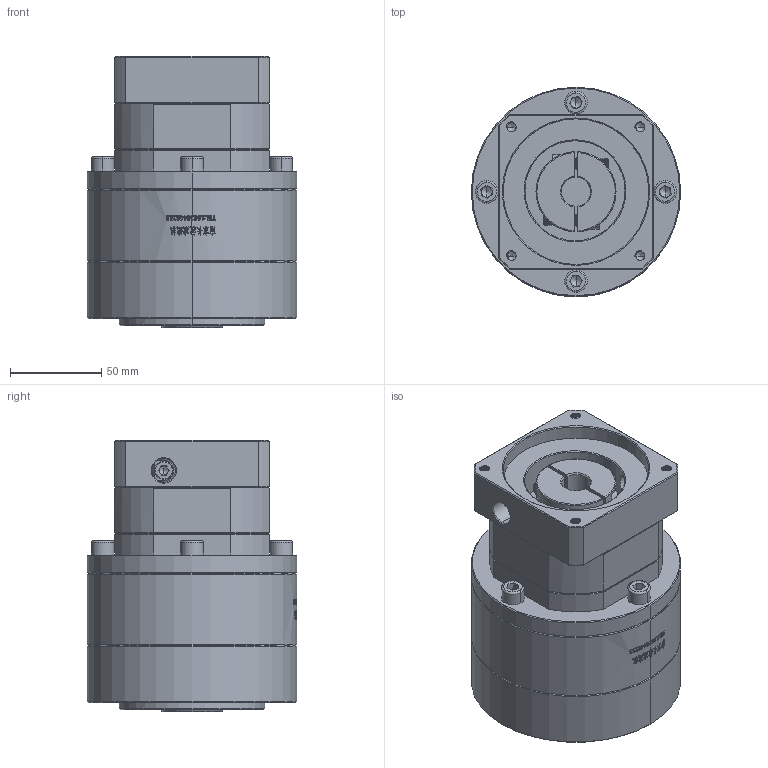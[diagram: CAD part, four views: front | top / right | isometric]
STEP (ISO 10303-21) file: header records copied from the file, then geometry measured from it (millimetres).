
FILE_DESCRIPTION (( 'STEP AP214' ), '1' );
FILE_NAME ('ZE120A-K25-L2-16-80-100-M6.step', '2023-03-13T06:53:29', ( '' ), ( '' ), 'SwSTEP 2.0', 'SolidWorks 2016', '' );
FILE_SCHEMA (( 'AUTOMOTIVE_DESIGN' ));
Length unit declared in the file: millimetre
Products named in the file (1): ZE120A-K25-L2-16-80-100-M6
Bounding box: 115 x 115 x 149 mm (x, y, z)
Volume: 1164358.2 mm3; surface area: 119846.5 mm2
Topology: 5 solids, 6 shells, 1965 faces, 5181 edges, 3307 vertices
Faces by surface type: plane 859, cylinder 467, bspline 324, cone 300, torus 15
Entity records: 111114 total; most frequent: CARTESIAN_POINT 45340, ORIENTED_EDGE 10290, DIRECTION 7723, EDGE_CURVE 5145, VERTEX_POINT 3307, VECTOR 2749, LINE 2749, AXIS2_PLACEMENT_3D 2487
